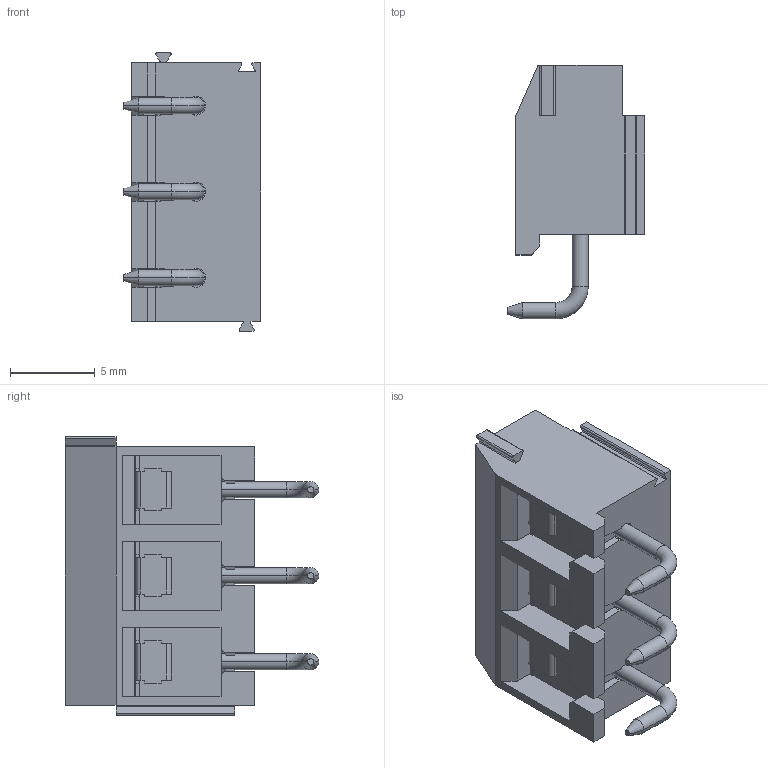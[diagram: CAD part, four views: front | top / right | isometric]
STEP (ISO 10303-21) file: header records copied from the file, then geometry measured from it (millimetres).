
FILE_DESCRIPTION((''),'2;1');
FILE_NAME('3PIN_SW0001','2019-06-10T',('zhenbing.lai'),(''),'CREO PARAMETRIC BY PTC INC, 2016260','CREO PARAMETRIC BY PTC INC, 2016260','');
FILE_SCHEMA(('CONFIG_CONTROL_DESIGN'));
Length unit declared in the file: millimetre
Products named in the file (1): 3PIN_SW0001
Bounding box: 8.11 x 14.97 x 16.46 mm (x, y, z)
Volume: 957.8 mm3; surface area: 1090.3 mm2
Topology: 1 solids, 1 shells, 295 faces, 852 edges, 556 vertices
Faces by surface type: plane 171, cylinder 82, torus 24, cone 18
Entity records: 10472 total; most frequent: CARTESIAN_POINT 2540, ORIENTED_EDGE 1704, DIRECTION 1619, EDGE_CURVE 852, VERTEX_POINT 556, VECTOR 543, LINE 543, AXIS2_PLACEMENT_3D 538
